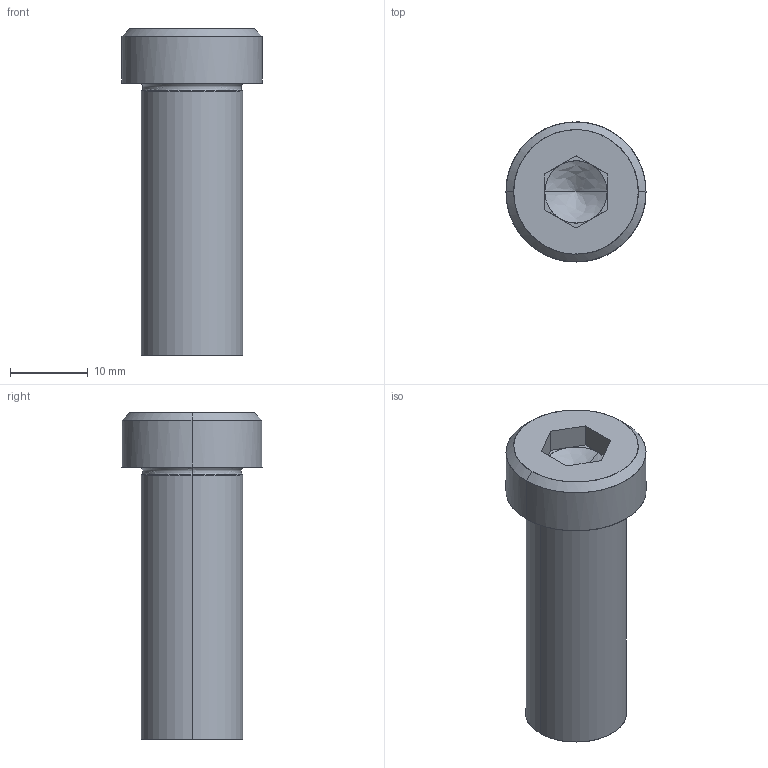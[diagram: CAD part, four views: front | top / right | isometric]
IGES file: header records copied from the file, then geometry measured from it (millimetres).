
Global section: file name: E:\UnigraphicsGraphicData\MISUMI_PRESS-PARTS\IGES\3d_sbtcn13-35_05142_r00.igs; native system: NX V5.0; preprocessor: UGS NX IGES V5.0; author: MISUMI; date: 20110105.162454; units: millimetre
Bounding box: 18 x 18 x 42 mm (x, y, z)
Surface area: 2816.8 mm2 (no closed solid volume)
Topology: 0 solids, 0 shells, 34 faces, 186 edges, 182 vertices
Faces by surface type: bspline 34
